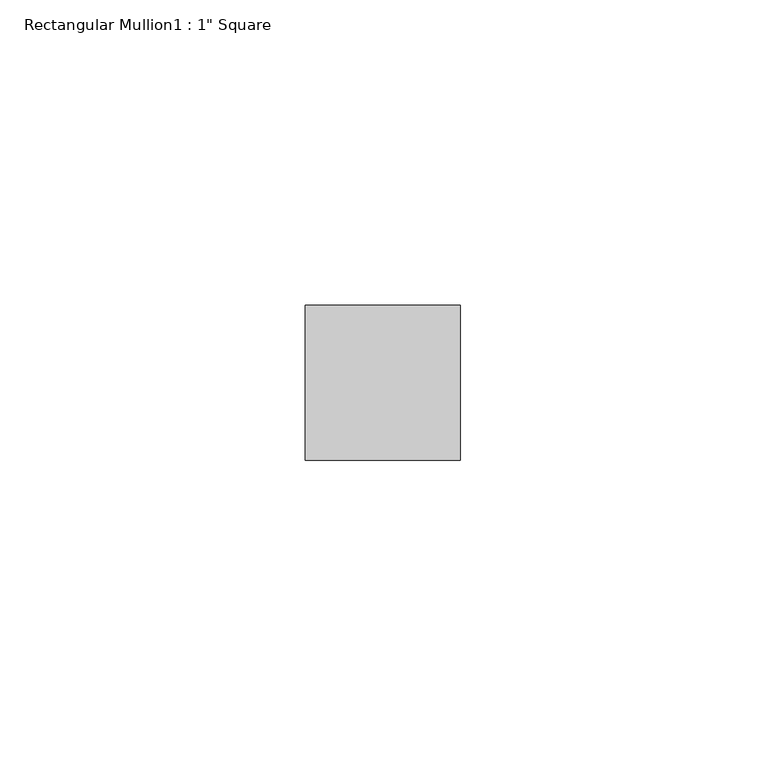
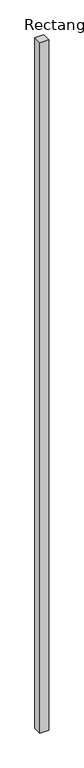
"""IFC4 building model written with IfcOpenShell, lengths in millimetres: member geometry."""

from ifc_helpers import new_model, si_unit, frame, origin, place, context, project, spatial, polyline, outline, extrude, source, transform, mapped, element, save


def member_3a403b9d(model_context):
    return source(origin(), model_context, "Body", "SweptSolid", [
        extrude(outline(polyline([(0.0, -19.05), (0.0, -44.45), (-25.4, -44.45), (-25.4, -19.05), (0.0, -19.05)])), frame((0.0, 0.0, -2133.6), z_axis=(0.0, 0.0, 1.0), x_axis=(1.0, 0.0, 0.0)), (0.0, 0.0, 1.0), 2133.6),
    ])


if __name__ == "__main__":
    model = new_model("IFC4")
    model_context = context("Model", 3, world=origin())
    ifc_project = project(units=[si_unit("LENGTHUNIT", "METRE", prefix="MILLI")], contexts=[model_context])
    site = spatial("IfcSite", under=ifc_project)
    building = spatial("IfcBuilding", under=site)
    placement = place(None, origin())
    member_shape = member_3a403b9d(model_context)
    element("IfcMember", 1, ObjectType="Rectangular Mullion1 : 1\" Square", at=placement, inside=building, context=model_context, shape_type="MappedRepresentation", body=[
        mapped(member_shape, transform((0.0, 0.0, 0.0), x_axis=(1.0, 0.0, 0.0), y_axis=(0.0, 1.0, 0.0), z_axis=(0.0, 0.0, 1.0))),
    ])
    save(model, "model.ifc")
